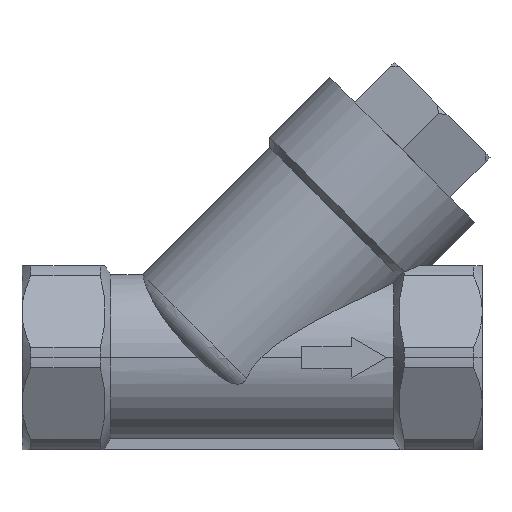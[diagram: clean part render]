
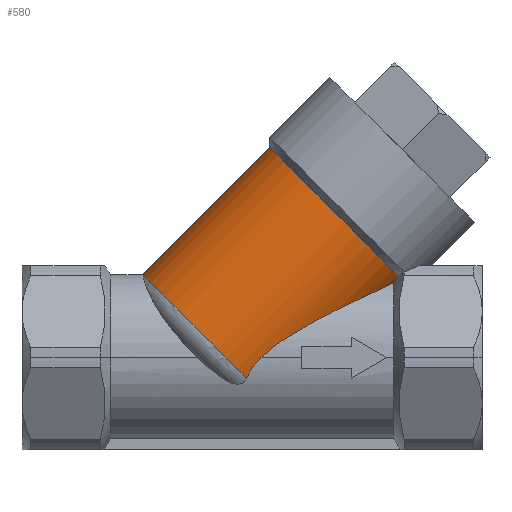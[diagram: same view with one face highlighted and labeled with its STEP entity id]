
A CAD part, top view. The second image highlights one B-rep face of the part: STEP entity #580.
In plain terms, the highlighted cylindrical face has radius 13.5 mm (diameter 27 mm), a partial arc.
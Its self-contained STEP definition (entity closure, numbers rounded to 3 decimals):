
#22 = VECTOR ( 'NONE', #3208, 1000. ) ;
#27 = LINE ( 'NONE', #2842, #22 ) ;
#84 = CIRCLE ( 'NONE', #2879, 13.5 ) ;
#230 = CARTESIAN_POINT ( 'NONE',  ( -0.816, -2.934, 11.378 ) ) ;
#242 = CARTESIAN_POINT ( 'NONE',  ( -0.701, -2.664, 11.447 ) ) ;
#279 = CYLINDRICAL_SURFACE ( 'NONE', #2532, 13.5 ) ;
#286 = FACE_OUTER_BOUND ( 'NONE', #2830, .T. ) ;
#374 = EDGE_CURVE ( 'NONE', #3349, #2814, #1543, .T. ) ;
#447 = CARTESIAN_POINT ( 'NONE',  ( -0.109, -1.621, 11.64 ) ) ;
#522 = CARTESIAN_POINT ( 'NONE',  ( -0.567, -2.396, 11.506 ) ) ;
#527 = CARTESIAN_POINT ( 'NONE',  ( 0.24, -1.132, 11.698 ) ) ;
#531 = CARTESIAN_POINT ( 'NONE',  ( -0.271, -1.873, 11.603 ) ) ;
#580 = ADVANCED_FACE ( 'NONE', ( #286 ), #279, .T. ) ;
#703 = CARTESIAN_POINT ( 'NONE',  ( 0.82, -0.438, 11.744 ) ) ;
#801 = CARTESIAN_POINT ( 'NONE',  ( 20., 10.538, 5.198 ) ) ;
#831 = ORIENTED_EDGE ( 'NONE', *, *, #1143, .F. ) ;
#843 = ORIENTED_EDGE ( 'NONE', *, *, #991, .T. ) ;
#846 = ORIENTED_EDGE ( 'NONE', *, *, #1895, .F. ) ;
#853 = ORIENTED_EDGE ( 'NONE', *, *, #374, .F. ) ;
#862 = ORIENTED_EDGE ( 'NONE', *, *, #1178, .F. ) ;
#878 = ORIENTED_EDGE ( 'NONE', *, *, #2425, .F. ) ;
#991 = EDGE_CURVE ( 'NONE', #3334, #2327, #84, .T. ) ;
#1024 = CARTESIAN_POINT ( 'NONE',  ( 1.243, 0., 11.75 ) ) ;
#1112 = CARTESIAN_POINT ( 'NONE',  ( -0.816, -2.934, 11.378 ) ) ;
#1143 = EDGE_CURVE ( 'NONE', #3334, #2002, #27, .T. ) ;
#1178 = EDGE_CURVE ( 'NONE', #1465, #3349, #2788, .T. ) ;
#1349 = CARTESIAN_POINT ( 'NONE',  ( 18.605, 9.901, 6.355 ) ) ;
#1367 = CARTESIAN_POINT ( 'NONE',  ( -15.5, 11.75, 0. ) ) ;
#1393 = CARTESIAN_POINT ( 'NONE',  ( 19.326, 10.231, 5.82 ) ) ;
#1400 = CARTESIAN_POINT ( 'NONE',  ( 20., 10.538, 5.198 ) ) ;
#1408 = CARTESIAN_POINT ( 'NONE',  ( 17.111, 9.209, 7.321 ) ) ;
#1411 = CARTESIAN_POINT ( 'NONE',  ( 16.336, 8.848, 7.751 ) ) ;
#1414 = CARTESIAN_POINT ( 'NONE',  ( 14.749, 8.096, 8.533 ) ) ;
#1418 = CARTESIAN_POINT ( 'NONE',  ( 13.944, 7.71, 8.881 ) ) ;
#1420 = CARTESIAN_POINT ( 'NONE',  ( 12.328, 6.921, 9.509 ) ) ;
#1423 = CARTESIAN_POINT ( 'NONE',  ( 11.515, 6.516, 9.79 ) ) ;
#1424 = CARTESIAN_POINT ( 'NONE',  ( 9.886, 5.684, 10.296 ) ) ;
#1430 = CARTESIAN_POINT ( 'NONE',  ( 9.07, 5.255, 10.521 ) ) ;
#1436 = B_SPLINE_CURVE_WITH_KNOTS ( 'NONE', 3,
 ( #3005, #1777, #703, #1941, #527, #447, #531, #522, #242, #230 ),
 .UNSPECIFIED., .F., .F.,
 ( 4, 2, 2, 2, 4 ),
 ( 0.023, 0.024, 0.025, 0.026, 0.027 ),
 .UNSPECIFIED. ) ;
#1440 = CARTESIAN_POINT ( 'NONE',  ( 7.441, 4.365, 10.92 ) ) ;
#1442 = CARTESIAN_POINT ( 'NONE',  ( 6.629, 3.903, 11.095 ) ) ;
#1447 = CARTESIAN_POINT ( 'NONE',  ( 5.42, 3.169, 11.318 ) ) ;
#1451 = CARTESIAN_POINT ( 'NONE',  ( 5.02, 2.917, 11.385 ) ) ;
#1454 = CARTESIAN_POINT ( 'NONE',  ( 4.224, 2.395, 11.506 ) ) ;
#1458 = CARTESIAN_POINT ( 'NONE',  ( 3.828, 2.124, 11.56 ) ) ;
#1459 = CARTESIAN_POINT ( 'NONE',  ( 2.668, 1.282, 11.694 ) ) ;
#1463 = CARTESIAN_POINT ( 'NONE',  ( 1.924, 0.682, 11.75 ) ) ;
#1465 = VERTEX_POINT ( 'NONE', #3201 ) ;
#1466 = CARTESIAN_POINT ( 'NONE',  ( 1.243, 0., 11.75 ) ) ;
#1543 = B_SPLINE_CURVE_WITH_KNOTS ( 'NONE', 3,
 ( #1400, #1393, #1349, #1408, #1411, #1414, #1418, #1420, #1423, #1424, #1430, #1440, #1442, #1447, #1451, #1454, #1458, #1459, #1463, #1466 ),
 .UNSPECIFIED., .F., .F.,
 ( 4, 2, 2, 2, 2, 2, 2, 2, 2, 4 ),
 ( 0., 0.003, 0.006, 0.009, 0.011, 0.014, 0.017, 0.019, 0.02, 0.023 ),
 .UNSPECIFIED. ) ;
#1602 = AXIS2_PLACEMENT_3D ( 'NONE', #1996, #2008, #2034 ) ;
#1777 = CARTESIAN_POINT ( 'NONE',  ( 1.028, -0.215, 11.75 ) ) ;
#1889 = CARTESIAN_POINT ( 'NONE',  ( 26.842, 35., 0. ) ) ;
#1895 = EDGE_CURVE ( 'NONE', #2814, #2327, #1436, .T. ) ;
#1916 = DIRECTION ( 'NONE',  ( -0.707, 0.707, 0. ) ) ;
#1924 = DIRECTION ( 'NONE',  ( 0.707, 0.707, 0. ) ) ;
#1941 = CARTESIAN_POINT ( 'NONE',  ( 0.426, -0.896, 11.718 ) ) ;
#1996 = CARTESIAN_POINT ( 'NONE',  ( 11.993, 20.151, 0. ) ) ;
#2002 = VERTEX_POINT ( 'NONE', #2723 ) ;
#2008 = DIRECTION ( 'NONE',  ( 0.707, 0.707, 0. ) ) ;
#2034 = DIRECTION ( 'NONE',  ( -0.707, 0.707, 0. ) ) ;
#2327 = VERTEX_POINT ( 'NONE', #1112 ) ;
#2425 = EDGE_CURVE ( 'NONE', #2002, #1465, #3149, .T. ) ;
#2532 = AXIS2_PLACEMENT_3D ( 'NONE', #1889, #1924, #1916 ) ;
#2646 = CARTESIAN_POINT ( 'NONE',  ( -5.954, 2.204, 0. ) ) ;
#2648 = DIRECTION ( 'NONE',  ( 0.707, 0.707, 0. ) ) ;
#2654 = DIRECTION ( 'NONE',  ( -0.707, 0.707, 0. ) ) ;
#2723 = CARTESIAN_POINT ( 'NONE',  ( 2.447, 29.697, 0. ) ) ;
#2788 = B_SPLINE_CURVE_WITH_KNOTS ( 'NONE', 3,
 ( #3188, #3163, #2887, #2889 ),
 .UNSPECIFIED., .F., .F.,
 ( 4, 4 ),
 ( 0.002, 0.003 ),
 .UNSPECIFIED. ) ;
#2814 = VERTEX_POINT ( 'NONE', #1024 ) ;
#2830 = EDGE_LOOP ( 'NONE', ( #831, #843, #846, #853, #862, #878 ) ) ;
#2842 = CARTESIAN_POINT ( 'NONE',  ( 17.296, 44.546, 0. ) ) ;
#2879 = AXIS2_PLACEMENT_3D ( 'NONE', #2646, #2648, #2654 ) ;
#2887 = CARTESIAN_POINT ( 'NONE',  ( 20.212, 10.858, 5.38 ) ) ;
#2889 = CARTESIAN_POINT ( 'NONE',  ( 20., 10.538, 5.198 ) ) ;
#3005 = CARTESIAN_POINT ( 'NONE',  ( 1.243, 0., 11.75 ) ) ;
#3149 = CIRCLE ( 'NONE', #1602, 13.5 ) ;
#3163 = CARTESIAN_POINT ( 'NONE',  ( 20.425, 11.181, 5.556 ) ) ;
#3188 = CARTESIAN_POINT ( 'NONE',  ( 20.637, 11.507, 5.727 ) ) ;
#3201 = CARTESIAN_POINT ( 'NONE',  ( 20.637, 11.507, 5.727 ) ) ;
#3208 = DIRECTION ( 'NONE',  ( 0.707, 0.707, 0. ) ) ;
#3334 = VERTEX_POINT ( 'NONE', #1367 ) ;
#3349 = VERTEX_POINT ( 'NONE', #801 ) ;
